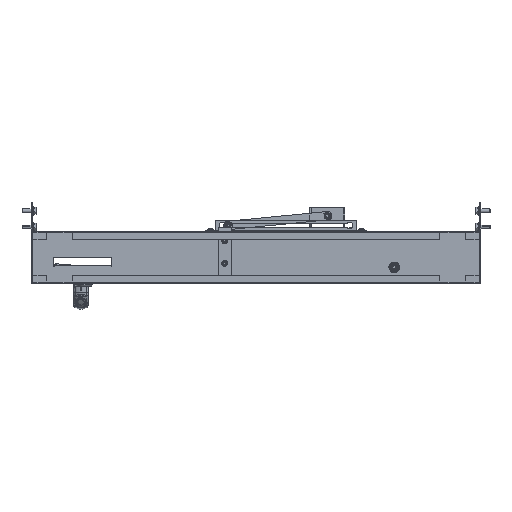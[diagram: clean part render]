
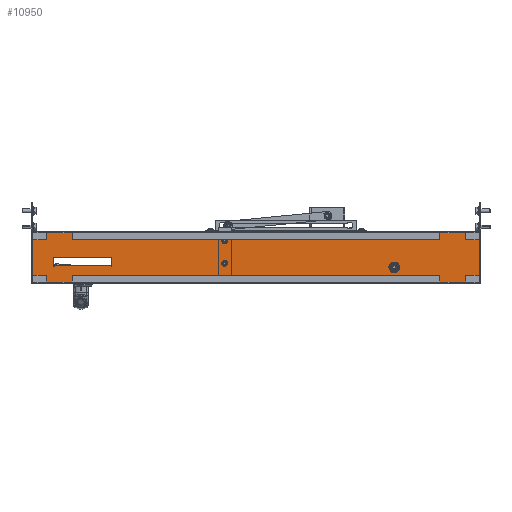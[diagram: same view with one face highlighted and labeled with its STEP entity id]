
A CAD part, front view. The second image highlights one B-rep face of the part: STEP entity #10950.
In plain terms, the highlighted planar face has unit normal (0, -1, 0).
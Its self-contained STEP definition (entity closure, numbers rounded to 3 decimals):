
#9122 = VERTEX_POINT('',#9123);
#9123 = CARTESIAN_POINT('',(-48.5,-1.5,-6.9));
#9141 = VERTEX_POINT('',#9142);
#9142 = CARTESIAN_POINT('',(-48.5,-1.5,-11.1));
#9148 = EDGE_CURVE('',#9122,#9141,#9149,.T.);
#9149 = CIRCLE('',#9150,2.1);
#9150 = AXIS2_PLACEMENT_3D('',#9151,#9152,#9153);
#9151 = CARTESIAN_POINT('',(-48.5,-1.5,-9.));
#9152 = DIRECTION('',(0.,-1.,0.));
#9153 = DIRECTION('',(0.,0.,-1.));
#9164 = VERTEX_POINT('',#9165);
#9165 = CARTESIAN_POINT('',(-48.5,-1.5,28.1));
#9183 = VERTEX_POINT('',#9184);
#9184 = CARTESIAN_POINT('',(-48.5,-1.5,23.9));
#9190 = EDGE_CURVE('',#9164,#9183,#9191,.T.);
#9191 = CIRCLE('',#9192,2.1);
#9192 = AXIS2_PLACEMENT_3D('',#9193,#9194,#9195);
#9193 = CARTESIAN_POINT('',(-48.5,-1.5,26.));
#9194 = DIRECTION('',(0.,-1.,0.));
#9195 = DIRECTION('',(0.,0.,-1.));
#9206 = VERTEX_POINT('',#9207);
#9207 = CARTESIAN_POINT('',(-224.,-1.5,-13.6));
#9215 = EDGE_CURVE('',#9206,#9216,#9218,.T.);
#9216 = VERTEX_POINT('',#9217);
#9217 = CARTESIAN_POINT('',(-223.5,-1.5,-13.6));
#9218 = LINE('',#9219,#9220);
#9219 = CARTESIAN_POINT('',(0.,-1.5,-13.6));
#9220 = VECTOR('',#9221,1.);
#9221 = DIRECTION('',(1.,0.,0.));
#10512 = VERTEX_POINT('',#10513);
#10513 = CARTESIAN_POINT('',(346.4,-1.5,-38.5));
#10519 = EDGE_CURVE('',#10520,#10512,#10522,.T.);
#10520 = VERTEX_POINT('',#10521);
#10521 = CARTESIAN_POINT('',(-346.4,-1.5,-38.5));
#10522 = LINE('',#10523,#10524);
#10523 = CARTESIAN_POINT('',(0.,-1.5,-38.5));
#10524 = VECTOR('',#10525,1.);
#10525 = DIRECTION('',(1.,0.,0.));
#10768 = VERTEX_POINT('',#10769);
#10769 = CARTESIAN_POINT('',(-346.4,-1.5,38.5));
#10775 = EDGE_CURVE('',#10776,#10768,#10778,.T.);
#10776 = VERTEX_POINT('',#10777);
#10777 = CARTESIAN_POINT('',(346.4,-1.5,38.5));
#10778 = LINE('',#10779,#10780);
#10779 = CARTESIAN_POINT('',(0.,-1.5,38.5));
#10780 = VECTOR('',#10781,1.);
#10781 = DIRECTION('',(-1.,0.,0.));
#10867 = EDGE_CURVE('',#10868,#10870,#10872,.T.);
#10868 = VERTEX_POINT('',#10869);
#10869 = CARTESIAN_POINT('',(-346.4,-1.5,-37.9));
#10870 = VERTEX_POINT('',#10871);
#10871 = CARTESIAN_POINT('',(-347.,-1.5,-37.9));
#10872 = LINE('',#10873,#10874);
#10873 = CARTESIAN_POINT('',(0.,-1.5,-37.9));
#10874 = VECTOR('',#10875,1.);
#10875 = DIRECTION('',(-1.,-0.,0.));
#10950 = ADVANCED_FACE('',(#10951,#10961,#10971,#11021,#11078),#11149,
  .T.);
#10951 = FACE_BOUND('',#10952,.T.);
#10952 = EDGE_LOOP('',(#10953,#10954));
#10953 = ORIENTED_EDGE('',*,*,#9148,.F.);
#10954 = ORIENTED_EDGE('',*,*,#10955,.F.);
#10955 = EDGE_CURVE('',#9141,#9122,#10956,.T.);
#10956 = CIRCLE('',#10957,2.1);
#10957 = AXIS2_PLACEMENT_3D('',#10958,#10959,#10960);
#10958 = CARTESIAN_POINT('',(-48.5,-1.5,-9.));
#10959 = DIRECTION('',(0.,-1.,0.));
#10960 = DIRECTION('',(0.,0.,-1.));
#10961 = FACE_BOUND('',#10962,.T.);
#10962 = EDGE_LOOP('',(#10963,#10964));
#10963 = ORIENTED_EDGE('',*,*,#9190,.F.);
#10964 = ORIENTED_EDGE('',*,*,#10965,.F.);
#10965 = EDGE_CURVE('',#9183,#9164,#10966,.T.);
#10966 = CIRCLE('',#10967,2.1);
#10967 = AXIS2_PLACEMENT_3D('',#10968,#10969,#10970);
#10968 = CARTESIAN_POINT('',(-48.5,-1.5,26.));
#10969 = DIRECTION('',(0.,-1.,0.));
#10970 = DIRECTION('',(0.,0.,-1.));
#10971 = FACE_BOUND('',#10972,.T.);
#10972 = EDGE_LOOP('',(#10973,#10983,#10991,#10999,#11007,#11015));
#10973 = ORIENTED_EDGE('',*,*,#10974,.F.);
#10974 = EDGE_CURVE('',#10975,#10977,#10979,.T.);
#10975 = VERTEX_POINT('',#10976);
#10976 = CARTESIAN_POINT('',(217.82,-1.5,-9.25));
#10977 = VERTEX_POINT('',#10978);
#10978 = CARTESIAN_POINT('',(211.18,-1.5,-9.25));
#10979 = LINE('',#10980,#10981);
#10980 = CARTESIAN_POINT('',(0.,-1.5,-9.25));
#10981 = VECTOR('',#10982,1.);
#10982 = DIRECTION('',(-1.,0.,0.));
#10983 = ORIENTED_EDGE('',*,*,#10984,.F.);
#10984 = EDGE_CURVE('',#10985,#10975,#10987,.T.);
#10985 = VERTEX_POINT('',#10986);
#10986 = CARTESIAN_POINT('',(221.14,-1.5,-15.));
#10987 = LINE('',#10988,#10989);
#10988 = CARTESIAN_POINT('',(159.359,-1.5,92.006));
#10989 = VECTOR('',#10990,1.);
#10990 = DIRECTION('',(-0.5,0.,0.866));
#10991 = ORIENTED_EDGE('',*,*,#10992,.F.);
#10992 = EDGE_CURVE('',#10993,#10985,#10995,.T.);
#10993 = VERTEX_POINT('',#10994);
#10994 = CARTESIAN_POINT('',(217.82,-1.5,-20.75));
#10995 = LINE('',#10996,#10997);
#10996 = CARTESIAN_POINT('',(172.35,-1.5,-99.506));
#10997 = VECTOR('',#10998,1.);
#10998 = DIRECTION('',(0.5,0.,0.866));
#10999 = ORIENTED_EDGE('',*,*,#11000,.F.);
#11000 = EDGE_CURVE('',#11001,#10993,#11003,.T.);
#11001 = VERTEX_POINT('',#11002);
#11002 = CARTESIAN_POINT('',(211.18,-1.5,-20.75));
#11003 = LINE('',#11004,#11005);
#11004 = CARTESIAN_POINT('',(0.,-1.5,-20.75));
#11005 = VECTOR('',#11006,1.);
#11006 = DIRECTION('',(1.,0.,0.));
#11007 = ORIENTED_EDGE('',*,*,#11008,.F.);
#11008 = EDGE_CURVE('',#11009,#11001,#11011,.T.);
#11009 = VERTEX_POINT('',#11010);
#11010 = CARTESIAN_POINT('',(207.86,-1.5,-15.));
#11011 = LINE('',#11012,#11013);
#11012 = CARTESIAN_POINT('',(149.4,-1.5,86.256));
#11013 = VECTOR('',#11014,1.);
#11014 = DIRECTION('',(0.5,0.,-0.866));
#11015 = ORIENTED_EDGE('',*,*,#11016,.F.);
#11016 = EDGE_CURVE('',#10977,#11009,#11017,.T.);
#11017 = LINE('',#11018,#11019);
#11018 = CARTESIAN_POINT('',(162.391,-1.5,-93.756));
#11019 = VECTOR('',#11020,1.);
#11020 = DIRECTION('',(-0.5,0.,-0.866));
#11021 = FACE_BOUND('',#11022,.T.);
#11022 = EDGE_LOOP('',(#11023,#11033,#11041,#11047,#11048,#11056,#11064,
    #11072));
#11023 = ORIENTED_EDGE('',*,*,#11024,.F.);
#11024 = EDGE_CURVE('',#11025,#11027,#11029,.T.);
#11025 = VERTEX_POINT('',#11026);
#11026 = CARTESIAN_POINT('',(-313.5,-1.5,0.4));
#11027 = VERTEX_POINT('',#11028);
#11028 = CARTESIAN_POINT('',(-313.5,-1.5,-13.6));
#11029 = LINE('',#11030,#11031);
#11030 = CARTESIAN_POINT('',(-313.5,-1.5,0.));
#11031 = VECTOR('',#11032,1.);
#11032 = DIRECTION('',(0.,0.,-1.));
#11033 = ORIENTED_EDGE('',*,*,#11034,.F.);
#11034 = EDGE_CURVE('',#11035,#11025,#11037,.T.);
#11035 = VERTEX_POINT('',#11036);
#11036 = CARTESIAN_POINT('',(-223.5,-1.5,0.4));
#11037 = LINE('',#11038,#11039);
#11038 = CARTESIAN_POINT('',(0.,-1.5,0.4));
#11039 = VECTOR('',#11040,1.);
#11040 = DIRECTION('',(-1.,0.,0.));
#11041 = ORIENTED_EDGE('',*,*,#11042,.F.);
#11042 = EDGE_CURVE('',#9216,#11035,#11043,.T.);
#11043 = LINE('',#11044,#11045);
#11044 = CARTESIAN_POINT('',(-223.5,-1.5,0.));
#11045 = VECTOR('',#11046,1.);
#11046 = DIRECTION('',(0.,0.,1.));
#11047 = ORIENTED_EDGE('',*,*,#9215,.F.);
#11048 = ORIENTED_EDGE('',*,*,#11049,.T.);
#11049 = EDGE_CURVE('',#9206,#11050,#11052,.T.);
#11050 = VERTEX_POINT('',#11051);
#11051 = CARTESIAN_POINT('',(-224.,-1.5,-13.));
#11052 = LINE('',#11053,#11054);
#11053 = CARTESIAN_POINT('',(-224.,-1.5,-13.6));
#11054 = VECTOR('',#11055,1.);
#11055 = DIRECTION('',(-0.,-0.,1.));
#11056 = ORIENTED_EDGE('',*,*,#11057,.T.);
#11057 = EDGE_CURVE('',#11050,#11058,#11060,.T.);
#11058 = VERTEX_POINT('',#11059);
#11059 = CARTESIAN_POINT('',(-313.,-1.5,-13.));
#11060 = LINE('',#11061,#11062);
#11061 = CARTESIAN_POINT('',(0.,-1.5,-13.));
#11062 = VECTOR('',#11063,1.);
#11063 = DIRECTION('',(-1.,-0.,0.));
#11064 = ORIENTED_EDGE('',*,*,#11065,.F.);
#11065 = EDGE_CURVE('',#11066,#11058,#11068,.T.);
#11066 = VERTEX_POINT('',#11067);
#11067 = CARTESIAN_POINT('',(-313.,-1.5,-13.6));
#11068 = LINE('',#11069,#11070);
#11069 = CARTESIAN_POINT('',(-313.,-1.5,0.));
#11070 = VECTOR('',#11071,1.);
#11071 = DIRECTION('',(-0.,0.,1.));
#11072 = ORIENTED_EDGE('',*,*,#11073,.F.);
#11073 = EDGE_CURVE('',#11027,#11066,#11074,.T.);
#11074 = LINE('',#11075,#11076);
#11075 = CARTESIAN_POINT('',(0.,-1.5,-13.6));
#11076 = VECTOR('',#11077,1.);
#11077 = DIRECTION('',(1.,0.,0.));
#11078 = FACE_BOUND('',#11079,.T.);
#11079 = EDGE_LOOP('',(#11080,#11090,#11096,#11097,#11105,#11113,#11119,
    #11120,#11126,#11127,#11135,#11143));
#11080 = ORIENTED_EDGE('',*,*,#11081,.F.);
#11081 = EDGE_CURVE('',#11082,#11084,#11086,.T.);
#11082 = VERTEX_POINT('',#11083);
#11083 = CARTESIAN_POINT('',(346.4,-1.5,37.9));
#11084 = VERTEX_POINT('',#11085);
#11085 = CARTESIAN_POINT('',(347.,-1.5,37.9));
#11086 = LINE('',#11087,#11088);
#11087 = CARTESIAN_POINT('',(0.,-1.5,37.9));
#11088 = VECTOR('',#11089,1.);
#11089 = DIRECTION('',(1.,-0.,0.));
#11090 = ORIENTED_EDGE('',*,*,#11091,.T.);
#11091 = EDGE_CURVE('',#11082,#10776,#11092,.T.);
#11092 = LINE('',#11093,#11094);
#11093 = CARTESIAN_POINT('',(346.4,-1.5,37.9));
#11094 = VECTOR('',#11095,1.);
#11095 = DIRECTION('',(-0.,-0.,1.));
#11096 = ORIENTED_EDGE('',*,*,#10775,.T.);
#11097 = ORIENTED_EDGE('',*,*,#11098,.F.);
#11098 = EDGE_CURVE('',#11099,#10768,#11101,.T.);
#11099 = VERTEX_POINT('',#11100);
#11100 = CARTESIAN_POINT('',(-346.4,-1.5,37.9));
#11101 = LINE('',#11102,#11103);
#11102 = CARTESIAN_POINT('',(-346.4,-1.5,0.));
#11103 = VECTOR('',#11104,1.);
#11104 = DIRECTION('',(-0.,0.,1.));
#11105 = ORIENTED_EDGE('',*,*,#11106,.T.);
#11106 = EDGE_CURVE('',#11099,#11107,#11109,.T.);
#11107 = VERTEX_POINT('',#11108);
#11108 = CARTESIAN_POINT('',(-347.,-1.5,37.9));
#11109 = LINE('',#11110,#11111);
#11110 = CARTESIAN_POINT('',(-346.4,-1.5,37.9));
#11111 = VECTOR('',#11112,1.);
#11112 = DIRECTION('',(-1.,-0.,0.));
#11113 = ORIENTED_EDGE('',*,*,#11114,.F.);
#11114 = EDGE_CURVE('',#10870,#11107,#11115,.T.);
#11115 = LINE('',#11116,#11117);
#11116 = CARTESIAN_POINT('',(-347.,-1.5,0.));
#11117 = VECTOR('',#11118,1.);
#11118 = DIRECTION('',(0.,0.,1.));
#11119 = ORIENTED_EDGE('',*,*,#10867,.F.);
#11120 = ORIENTED_EDGE('',*,*,#11121,.T.);
#11121 = EDGE_CURVE('',#10868,#10520,#11122,.T.);
#11122 = LINE('',#11123,#11124);
#11123 = CARTESIAN_POINT('',(-346.4,-1.5,-37.9));
#11124 = VECTOR('',#11125,1.);
#11125 = DIRECTION('',(-0.,-0.,-1.));
#11126 = ORIENTED_EDGE('',*,*,#10519,.T.);
#11127 = ORIENTED_EDGE('',*,*,#11128,.F.);
#11128 = EDGE_CURVE('',#11129,#10512,#11131,.T.);
#11129 = VERTEX_POINT('',#11130);
#11130 = CARTESIAN_POINT('',(346.4,-1.5,-37.9));
#11131 = LINE('',#11132,#11133);
#11132 = CARTESIAN_POINT('',(346.4,-1.5,0.));
#11133 = VECTOR('',#11134,1.);
#11134 = DIRECTION('',(0.,0.,-1.));
#11135 = ORIENTED_EDGE('',*,*,#11136,.T.);
#11136 = EDGE_CURVE('',#11129,#11137,#11139,.T.);
#11137 = VERTEX_POINT('',#11138);
#11138 = CARTESIAN_POINT('',(347.,-1.5,-37.9));
#11139 = LINE('',#11140,#11141);
#11140 = CARTESIAN_POINT('',(346.4,-1.5,-37.9));
#11141 = VECTOR('',#11142,1.);
#11142 = DIRECTION('',(1.,-0.,0.));
#11143 = ORIENTED_EDGE('',*,*,#11144,.T.);
#11144 = EDGE_CURVE('',#11137,#11084,#11145,.T.);
#11145 = LINE('',#11146,#11147);
#11146 = CARTESIAN_POINT('',(347.,-1.5,0.));
#11147 = VECTOR('',#11148,1.);
#11148 = DIRECTION('',(0.,-0.,1.));
#11149 = PLANE('',#11150);
#11150 = AXIS2_PLACEMENT_3D('',#11151,#11152,#11153);
#11151 = CARTESIAN_POINT('',(0.,-1.5,0.));
#11152 = DIRECTION('',(0.,-1.,0.));
#11153 = DIRECTION('',(0.,-0.,-1.));
